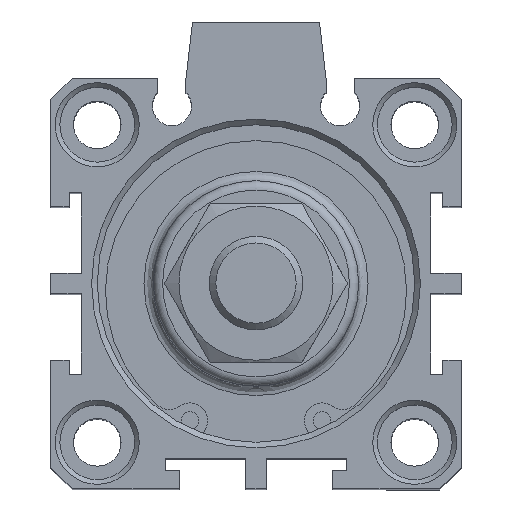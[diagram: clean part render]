
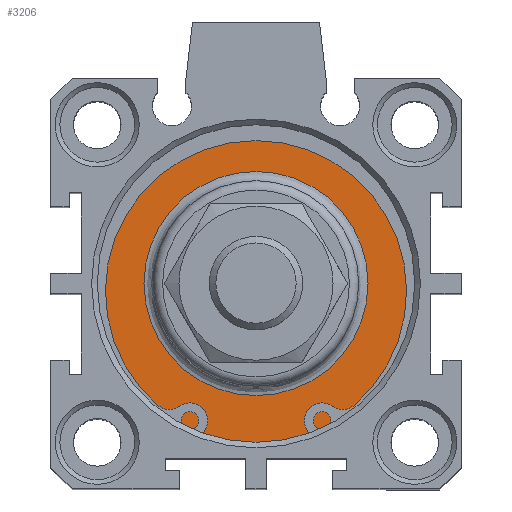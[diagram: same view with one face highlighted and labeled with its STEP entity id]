
A CAD part, top view. The second image highlights one B-rep face of the part: STEP entity #3206.
In plain terms, the highlighted planar face has unit normal (0, 0, 1).
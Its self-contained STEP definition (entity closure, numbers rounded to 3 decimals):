
#3155=CARTESIAN_POINT('',(2.273,12.598,60.8));
#3156=VERTEX_POINT('',#3155);
#3157=CARTESIAN_POINT('',(2.273,0.598,60.8));
#3158=DIRECTION('',(0.0,0.0,1.0));
#3159=DIRECTION('',(0.0,-1.0,0.0));
#3160=AXIS2_PLACEMENT_3D('',#3157,#3158,#3159);
#3161=CIRCLE('',#3160,12.);
#3162=EDGE_CURVE('',#3156,#3156,#3161,.T.);
#3187=CARTESIAN_POINT('',(2.273,14.598,60.8));
#3188=DIRECTION('',(0.0,0.0,1.0));
#3189=DIRECTION('',(1.0,0.0,0.0));
#3190=AXIS2_PLACEMENT_3D('',#3187,#3188,#3189);
#3191=PLANE('',#3190);
#3192=CARTESIAN_POINT('',(2.273,17.598,60.8));
#3193=VERTEX_POINT('',#3192);
#3194=CARTESIAN_POINT('',(2.273,0.598,60.8));
#3195=DIRECTION('',(0.0,0.0,-1.0));
#3196=DIRECTION('',(0.0,1.0,0.0));
#3197=AXIS2_PLACEMENT_3D('',#3194,#3195,#3196);
#3198=CIRCLE('',#3197,17.);
#3199=EDGE_CURVE('',#3193,#3193,#3198,.T.);
#3200=ORIENTED_EDGE('',*,*,#3199,.F.);
#3201=EDGE_LOOP('',(#3200));
#3202=FACE_OUTER_BOUND('',#3201,.T.);
#3203=ORIENTED_EDGE('',*,*,#3162,.F.);
#3204=EDGE_LOOP('',(#3203));
#3205=FACE_BOUND('',#3204,.T.);
#3206=ADVANCED_FACE('',(#3202,#3205),#3191,.T.);
